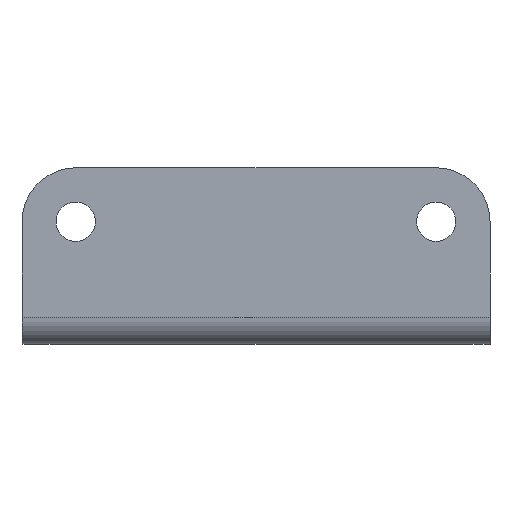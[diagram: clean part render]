
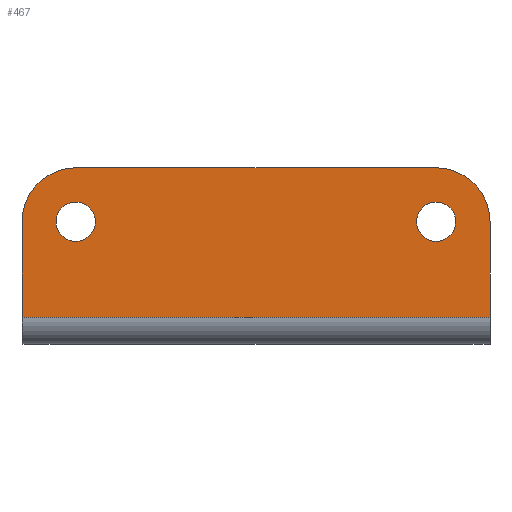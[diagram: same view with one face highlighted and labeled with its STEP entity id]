
A CAD part, left-side view. The second image highlights one B-rep face of the part: STEP entity #467.
In plain terms, the highlighted planar face has unit normal (-1, 0, 0).
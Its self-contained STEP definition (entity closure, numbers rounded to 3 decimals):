
#21=FACE_BOUND('',#88,.T.);
#22=FACE_BOUND('',#89,.T.);
#34=PLANE('',#534);
#57=FACE_OUTER_BOUND('',#87,.T.);
#87=EDGE_LOOP('',(#401,#402,#403,#404,#405,#406));
#88=EDGE_LOOP('',(#407));
#89=EDGE_LOOP('',(#408));
#125=LINE('',#780,#165);
#129=LINE('',#793,#169);
#132=LINE('',#803,#172);
#133=LINE('',#804,#173);
#165=VECTOR('',#639,10.);
#169=VECTOR('',#655,10.);
#172=VECTOR('',#666,10.);
#173=VECTOR('',#667,10.);
#183=CIRCLE('',#508,4.);
#185=CIRCLE('',#511,4.);
#191=CIRCLE('',#521,11.);
#194=CIRCLE('',#528,11.);
#215=VERTEX_POINT('',#727);
#217=VERTEX_POINT('',#732);
#230=VERTEX_POINT('',#763);
#231=VERTEX_POINT('',#765);
#236=VERTEX_POINT('',#779);
#238=VERTEX_POINT('',#787);
#239=VERTEX_POINT('',#791);
#242=VERTEX_POINT('',#802);
#267=EDGE_CURVE('',#215,#215,#183,.T.);
#269=EDGE_CURVE('',#217,#217,#185,.T.);
#284=EDGE_CURVE('',#230,#231,#191,.T.);
#291=EDGE_CURVE('',#231,#236,#125,.T.);
#295=EDGE_CURVE('',#236,#238,#194,.T.);
#298=EDGE_CURVE('',#239,#230,#129,.T.);
#303=EDGE_CURVE('',#239,#242,#132,.T.);
#304=EDGE_CURVE('',#238,#242,#133,.T.);
#401=ORIENTED_EDGE('',*,*,#284,.F.);
#402=ORIENTED_EDGE('',*,*,#298,.F.);
#403=ORIENTED_EDGE('',*,*,#303,.T.);
#404=ORIENTED_EDGE('',*,*,#304,.F.);
#405=ORIENTED_EDGE('',*,*,#295,.F.);
#406=ORIENTED_EDGE('',*,*,#291,.F.);
#407=ORIENTED_EDGE('',*,*,#267,.T.);
#408=ORIENTED_EDGE('',*,*,#269,.T.);
#467=ADVANCED_FACE('',(#57,#21,#22),#34,.T.);
#508=AXIS2_PLACEMENT_3D('',#728,#591,#592);
#511=AXIS2_PLACEMENT_3D('',#733,#597,#598);
#521=AXIS2_PLACEMENT_3D('',#766,#626,#627);
#528=AXIS2_PLACEMENT_3D('',#788,#648,#649);
#534=AXIS2_PLACEMENT_3D('',#801,#664,#665);
#591=DIRECTION('center_axis',(1.,0.,0.));
#592=DIRECTION('ref_axis',(0.,0.,-1.));
#597=DIRECTION('center_axis',(1.,0.,0.));
#598=DIRECTION('ref_axis',(0.,0.,-1.));
#626=DIRECTION('center_axis',(1.,0.,0.));
#627=DIRECTION('ref_axis',(0.,0.707,0.707));
#639=DIRECTION('',(0.,-1.,0.));
#648=DIRECTION('center_axis',(1.,0.,0.));
#649=DIRECTION('ref_axis',(0.,-0.707,0.707));
#655=DIRECTION('',(0.,0.,1.));
#664=DIRECTION('center_axis',(-1.,0.,0.));
#665=DIRECTION('ref_axis',(0.,0.,-1.));
#666=DIRECTION('',(0.,-1.,0.));
#667=DIRECTION('',(0.,0.,-1.));
#727=CARTESIAN_POINT('',(11.,495.757,-293.));
#728=CARTESIAN_POINT('Origin',(11.,495.757,-297.));
#732=CARTESIAN_POINT('',(11.,422.218,-293.));
#733=CARTESIAN_POINT('Origin',(11.,422.218,-297.));
#763=CARTESIAN_POINT('',(11.,506.718,-297.));
#765=CARTESIAN_POINT('',(11.,495.718,-286.));
#766=CARTESIAN_POINT('Origin',(11.,495.718,-297.));
#779=CARTESIAN_POINT('',(11.,422.218,-286.));
#780=CARTESIAN_POINT('',(11.,587.55,-286.));
#787=CARTESIAN_POINT('',(11.,411.218,-297.));
#788=CARTESIAN_POINT('Origin',(11.,422.218,-297.));
#791=CARTESIAN_POINT('',(11.,506.718,-316.5));
#793=CARTESIAN_POINT('',(11.,506.718,-298.118));
#801=CARTESIAN_POINT('Origin',(11.,587.55,-286.));
#802=CARTESIAN_POINT('',(11.,411.218,-316.5));
#803=CARTESIAN_POINT('',(11.,587.55,-316.5));
#804=CARTESIAN_POINT('',(11.,411.218,-295.));
